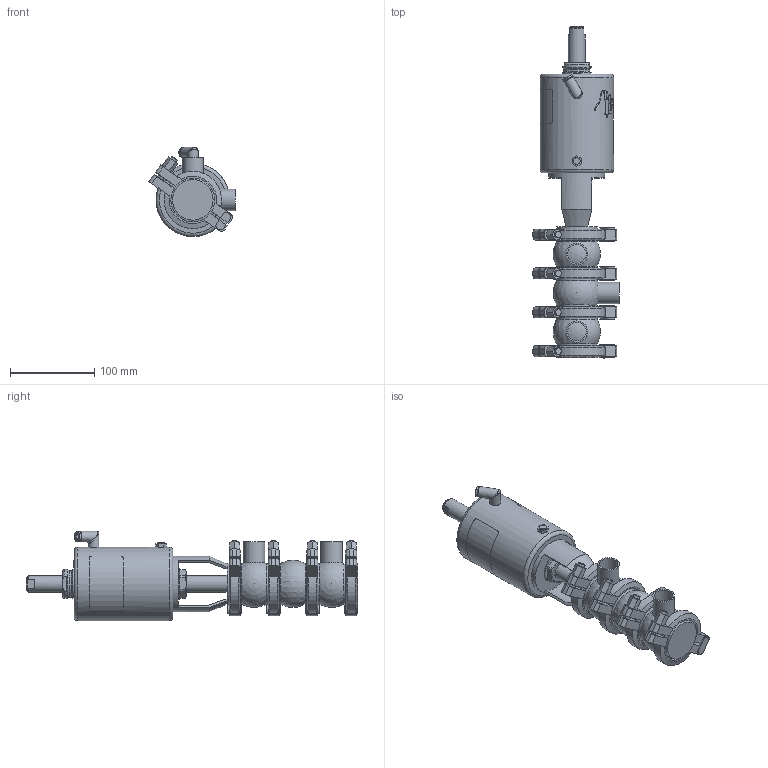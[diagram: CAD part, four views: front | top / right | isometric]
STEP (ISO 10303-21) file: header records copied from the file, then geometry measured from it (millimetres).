
FILE_DESCRIPTION (( 'STEP AP214' ), '1' );
FILE_NAME ('INNOVA L J W OD 1 T1 AS NC_10.241.16.0013.STEP', '2024-08-07T07:49:54', ( '' ), ( '' ), 'SwSTEP 2.0', 'SolidWorks 2023', '' );
FILE_SCHEMA (( 'AUTOMOTIVE_DESIGN' ));
Length unit declared in the file: millimetre
Products named in the file (6): 10.240.15.0001_DN 025; 10.240.15.0006_OD 1"; 10.241.15.0001_DIN 025; 10.240.15.0014_T1 AS P180; INNOVA L J W OD 1 T1 AS NC_10.241.16.0013; 10.240.15.0010_DN 025
Assembly tree (10 placements, depth 2):
  INNOVA L J W OD 1 T1 AS NC_10.241.16.0013
    10.240.15.0006_OD 1"  x3
    10.240.15.0010_DN 025
    10.240.15.0014_T1 AS P180
    10.240.15.0001_DN 025  x4
    10.241.15.0001_DIN 025
Bounding box: 101.94 x 393.09 x 105.75 mm (x, y, z)
Volume: 1235070.3 mm3; surface area: 192693.4 mm2
Topology: 11 solids, 11 shells, 537 faces, 1410 edges, 916 vertices
Faces by surface type: plane 260, cylinder 137, bspline 80, cone 50, sphere 6, torus 4
Full cylindrical faces by diameter (mm): 6.15 x1, 8 x9, 8.5 x1, 10.5 x1, 12.5 x3, 16 x1, 20 x2, 22.1 x3, 25.4 x3, 31 x1, 34.5 x2, 36.5 x1, 48 x8, 59.7 x8, 66 x1, 87 x1
Entity records: 19456 total; most frequent: CARTESIAN_POINT 10202, ORIENTED_EDGE 1620, DIRECTION 1239, EDGE_CURVE 810, VERTEX_POINT 555, AXIS2_PLACEMENT_3D 471, EDGE_LOOP 403, FACE_OUTER_BOUND 366
